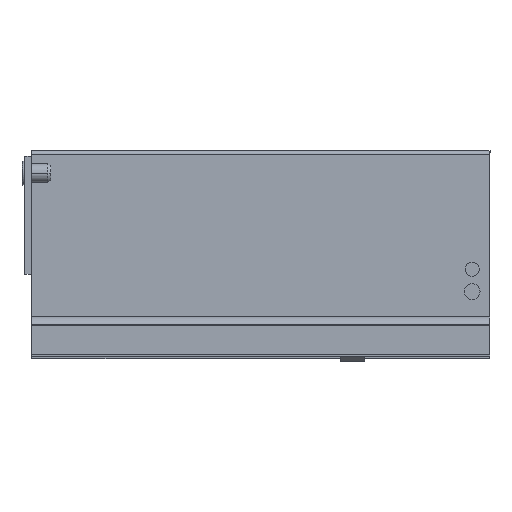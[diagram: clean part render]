
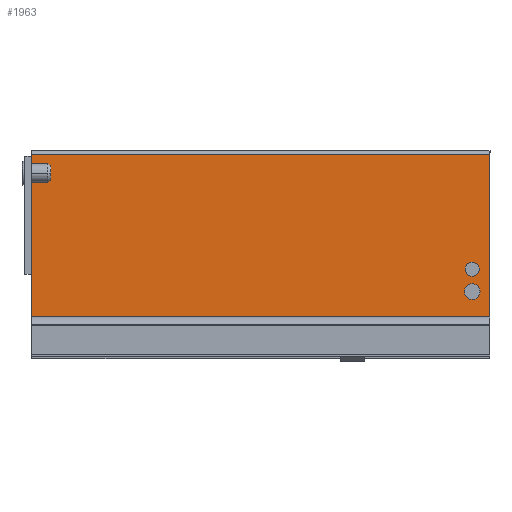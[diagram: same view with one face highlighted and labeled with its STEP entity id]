
A CAD part, left-side view. The second image highlights one B-rep face of the part: STEP entity #1963.
In plain terms, the highlighted planar face has unit normal (-1, 0, 0).
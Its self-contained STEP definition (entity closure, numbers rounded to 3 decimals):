
#2 = CIRCLE ( 'NONE', #626, 4.6 ) ;
#53 = FACE_BOUND ( 'NONE', #1112, .T. ) ;
#54 = FACE_BOUND ( 'NONE', #1115, .T. ) ;
#55 = FACE_OUTER_BOUND ( 'NONE', #1123, .T. ) ;
#205 = CIRCLE ( 'NONE', #587, 4.1 ) ;
#380 = CIRCLE ( 'NONE', #608, 4.6 ) ;
#382 = CIRCLE ( 'NONE', #609, 4.1 ) ;
#385 = VECTOR ( 'NONE', #2281, 1000. ) ;
#386 = LINE ( 'NONE', #2282, #385 ) ;
#387 = VECTOR ( 'NONE', #2283, 1000. ) ;
#388 = LINE ( 'NONE', #2284, #387 ) ;
#389 = VECTOR ( 'NONE', #2285, 1000. ) ;
#390 = LINE ( 'NONE', #2286, #389 ) ;
#391 = VECTOR ( 'NONE', #2287, 1000. ) ;
#392 = LINE ( 'NONE', #2288, #391 ) ;
#520 = AXIS2_PLACEMENT_3D ( 'NONE', #1679, #1680, #1681 ) ;
#587 = AXIS2_PLACEMENT_3D ( 'NONE', #1380, #1381, #1382 ) ;
#608 = AXIS2_PLACEMENT_3D ( 'NONE', #2277, #2276, #2275 ) ;
#609 = AXIS2_PLACEMENT_3D ( 'NONE', #2280, #2279, #2278 ) ;
#626 = AXIS2_PLACEMENT_3D ( 'NONE', #2079, #2078, #2077 ) ;
#631 = EDGE_CURVE ( 'NONE', #2105, #2154, #2, .T. ) ;
#693 = EDGE_CURVE ( 'NONE', #2183, #2155, #392, .T. ) ;
#694 = EDGE_CURVE ( 'NONE', #2155, #2213, #390, .T. ) ;
#695 = EDGE_CURVE ( 'NONE', #2100, #2213, #388, .T. ) ;
#696 = EDGE_CURVE ( 'NONE', #2183, #2100, #386, .T. ) ;
#697 = EDGE_CURVE ( 'NONE', #2167, #2109, #382, .T. ) ;
#698 = EDGE_CURVE ( 'NONE', #2154, #2105, #380, .T. ) ;
#780 = EDGE_CURVE ( 'NONE', #2109, #2167, #205, .T. ) ;
#824 = ORIENTED_EDGE ( 'NONE', *, *, #693, .T. ) ;
#825 = ORIENTED_EDGE ( 'NONE', *, *, #694, .T. ) ;
#826 = ORIENTED_EDGE ( 'NONE', *, *, #695, .F. ) ;
#827 = ORIENTED_EDGE ( 'NONE', *, *, #696, .F. ) ;
#828 = ORIENTED_EDGE ( 'NONE', *, *, #697, .F. ) ;
#829 = ORIENTED_EDGE ( 'NONE', *, *, #780, .F. ) ;
#830 = ORIENTED_EDGE ( 'NONE', *, *, #698, .F. ) ;
#831 = ORIENTED_EDGE ( 'NONE', *, *, #631, .F. ) ;
#1112 = EDGE_LOOP ( 'NONE', ( #830, #831 ) ) ;
#1115 = EDGE_LOOP ( 'NONE', ( #828, #829 ) ) ;
#1123 = EDGE_LOOP ( 'NONE', ( #824, #825, #826, #827 ) ) ;
#1380 = CARTESIAN_POINT ( 'NONE',  ( -21.5, 10.4, 33. ) ) ;
#1381 = DIRECTION ( 'NONE',  ( -1., 0., 0. ) ) ;
#1382 = DIRECTION ( 'NONE',  ( 0., 0., -1. ) ) ;
#1678 = PLANE ( 'NONE',  #520 ) ;
#1679 = CARTESIAN_POINT ( 'NONE',  ( -21.5, 267., 100. ) ) ;
#1680 = DIRECTION ( 'NONE',  ( -1., 0., 0. ) ) ;
#1681 = DIRECTION ( 'NONE',  ( 0., 0., -1. ) ) ;
#1774 = CARTESIAN_POINT ( 'NONE',  ( -21.5, 0., 100. ) ) ;
#1779 = CARTESIAN_POINT ( 'NONE',  ( -21.5, 10.4, 15.4 ) ) ;
#1783 = CARTESIAN_POINT ( 'NONE',  ( -21.5, 10.4, 28.9 ) ) ;
#1828 = CARTESIAN_POINT ( 'NONE',  ( -21.5, 10.4, 24.6 ) ) ;
#1829 = CARTESIAN_POINT ( 'NONE',  ( -21.5, 267., 5.395 ) ) ;
#1841 = CARTESIAN_POINT ( 'NONE',  ( -21.5, 10.4, 37.1 ) ) ;
#1857 = CARTESIAN_POINT ( 'NONE',  ( -21.5, 267., 100. ) ) ;
#1887 = CARTESIAN_POINT ( 'NONE',  ( -21.5, 0., 5.395 ) ) ;
#1963 = ADVANCED_FACE ( 'NONE', ( #55, #54, #53 ), #1678, .T. ) ;
#2077 = DIRECTION ( 'NONE',  ( 0., 0., -1. ) ) ;
#2078 = DIRECTION ( 'NONE',  ( -1., 0., 0. ) ) ;
#2079 = CARTESIAN_POINT ( 'NONE',  ( -21.5, 10.4, 20. ) ) ;
#2100 = VERTEX_POINT ( 'NONE', #1774 ) ;
#2105 = VERTEX_POINT ( 'NONE', #1779 ) ;
#2109 = VERTEX_POINT ( 'NONE', #1783 ) ;
#2154 = VERTEX_POINT ( 'NONE', #1828 ) ;
#2155 = VERTEX_POINT ( 'NONE', #1829 ) ;
#2167 = VERTEX_POINT ( 'NONE', #1841 ) ;
#2183 = VERTEX_POINT ( 'NONE', #1857 ) ;
#2213 = VERTEX_POINT ( 'NONE', #1887 ) ;
#2275 = DIRECTION ( 'NONE',  ( 0., 0., -1. ) ) ;
#2276 = DIRECTION ( 'NONE',  ( -1., 0., 0. ) ) ;
#2277 = CARTESIAN_POINT ( 'NONE',  ( -21.5, 10.4, 20. ) ) ;
#2278 = DIRECTION ( 'NONE',  ( 0., 0., -1. ) ) ;
#2279 = DIRECTION ( 'NONE',  ( -1., 0., 0. ) ) ;
#2280 = CARTESIAN_POINT ( 'NONE',  ( -21.5, 10.4, 33. ) ) ;
#2281 = DIRECTION ( 'NONE',  ( 0., -1., 0. ) ) ;
#2282 = CARTESIAN_POINT ( 'NONE',  ( -21.5, 144.577, 100. ) ) ;
#2283 = DIRECTION ( 'NONE',  ( 0., 0., -1. ) ) ;
#2284 = CARTESIAN_POINT ( 'NONE',  ( -21.5, 0., 100. ) ) ;
#2285 = DIRECTION ( 'NONE',  ( 0., -1., 0. ) ) ;
#2286 = CARTESIAN_POINT ( 'NONE',  ( -21.5, 144.577, 5.395 ) ) ;
#2287 = DIRECTION ( 'NONE',  ( 0., 0., -1. ) ) ;
#2288 = CARTESIAN_POINT ( 'NONE',  ( -21.5, 267., 100. ) ) ;
